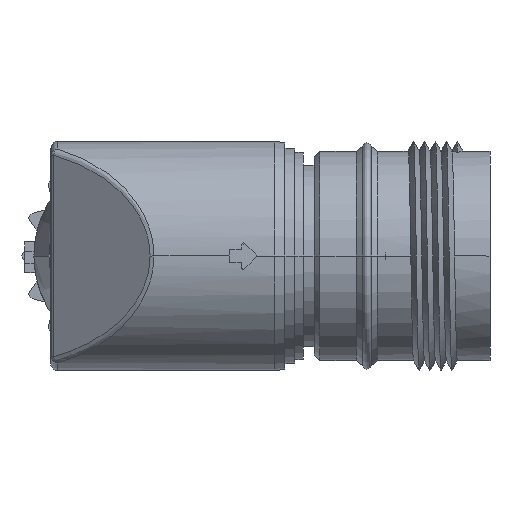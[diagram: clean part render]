
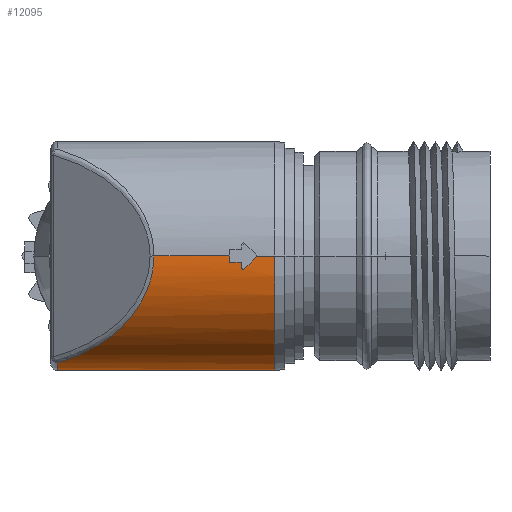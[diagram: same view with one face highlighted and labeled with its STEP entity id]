
A CAD part, left-side view. The second image highlights one B-rep face of the part: STEP entity #12095.
In plain terms, the highlighted cylindrical face has radius 13.1 mm (diameter 26.2 mm), a partial arc.
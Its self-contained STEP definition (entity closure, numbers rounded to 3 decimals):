
#8966=DIRECTION('',(-1.,0.,0.));
#8967=VECTOR('',#8966,8.636);
#8968=CARTESIAN_POINT('',(38.419,-13.1,
0.));
#8969=LINE('',#8968,#8967);
#8981=CARTESIAN_POINT('',(38.419,-13.1,
0.));
#9022=DIRECTION('',(-1.,0.,0.));
#9023=VECTOR('',#9022,6.211);
#9024=CARTESIAN_POINT('',(30.799,13.1,0.));
#9025=LINE('',#9024,#9023);
#9026=CARTESIAN_POINT('',(28.39,0.,0.));
#9027=DIRECTION('',(1.,0.,0.));
#9028=DIRECTION('',(0.,-0.994,0.108));
#9029=AXIS2_PLACEMENT_3D('',#9026,#9027,#9028);
#9031=CARTESIAN_POINT('',(28.134,-13.012,1.517));
#9032=CARTESIAN_POINT('',(27.662,-13.067,1.045));
#9033=CARTESIAN_POINT('',(27.189,-13.096,
0.572));
#9034=CARTESIAN_POINT('',(26.716,-13.1,
0.098));
#9036=DIRECTION('',(-1.,0.,0.));
#9037=VECTOR('',#9036,2.084);
#9038=CARTESIAN_POINT('',(26.672,-13.1,0.));
#9039=LINE('',#9038,#9037);
#9040=CARTESIAN_POINT('',(30.799,13.1,0.));
#9041=CARTESIAN_POINT('',(30.799,13.1,0.462));
#9042=CARTESIAN_POINT('',(30.865,13.052,1.374));
#9043=CARTESIAN_POINT('',(31.17,12.835,2.73));
#9044=CARTESIAN_POINT('',(31.635,12.512,3.942));
#9045=CARTESIAN_POINT('',(32.208,12.125,4.993));
#9046=CARTESIAN_POINT('',(32.805,11.74,5.831));
#9047=CARTESIAN_POINT('',(33.383,11.385,6.491));
#9048=CARTESIAN_POINT('',(33.949,11.056,7.035));
#9049=CARTESIAN_POINT('',(34.517,10.744,7.501));
#9050=CARTESIAN_POINT('',(35.125,10.434,7.926));
#9051=CARTESIAN_POINT('',(35.78,10.131,8.309));
#9052=CARTESIAN_POINT('',(36.458,9.854,8.635));
#9053=CARTESIAN_POINT('',(37.173,9.603,8.912));
#9054=CARTESIAN_POINT('',(37.961,9.382,9.144));
#9055=CARTESIAN_POINT('',(38.82,9.213,9.314));
#9056=CARTESIAN_POINT('',(39.718,9.121,9.403));
#9057=CARTESIAN_POINT('',(40.62,9.118,9.406));
#9058=CARTESIAN_POINT('',(41.514,9.203,9.323));
#9059=CARTESIAN_POINT('',(42.369,9.366,9.161));
#9060=CARTESIAN_POINT('',(43.154,9.581,8.937));
#9061=CARTESIAN_POINT('',(43.865,9.825,8.668));
#9062=CARTESIAN_POINT('',(44.536,10.095,8.353));
#9063=CARTESIAN_POINT('',(45.185,10.391,7.982));
#9064=CARTESIAN_POINT('',(45.79,10.695,7.57));
#9065=CARTESIAN_POINT('',(46.354,11.001,7.12));
#9066=CARTESIAN_POINT('',(46.91,11.322,6.6));
#9067=CARTESIAN_POINT('',(47.477,11.667,5.975));
#9068=CARTESIAN_POINT('',(48.066,12.043,5.186));
#9069=CARTESIAN_POINT('',(48.647,12.431,4.187));
#9070=CARTESIAN_POINT('',(49.139,12.771,3.009));
#9071=CARTESIAN_POINT('',(49.367,12.933,2.139));
#9072=CARTESIAN_POINT('',(49.45,12.992,1.679));
#9074=CARTESIAN_POINT('',(49.45,0.,0.));
#9075=DIRECTION('',(-1.,0.,0.));
#9076=DIRECTION('',(0.,-0.359,0.933));
#9077=AXIS2_PLACEMENT_3D('',#9074,#9075,#9076);
#9079=CARTESIAN_POINT('',(38.419,-13.1,
0.));
#9080=CARTESIAN_POINT('',(38.419,-13.1,
0.488));
#9081=CARTESIAN_POINT('',(38.491,-13.045,1.481));
#9082=CARTESIAN_POINT('',(38.829,-12.788,2.981));
#9083=CARTESIAN_POINT('',(39.434,-12.327,4.538));
#9084=CARTESIAN_POINT('',(40.359,-11.624,6.129));
#9085=CARTESIAN_POINT('',(41.623,-10.662,7.687));
#9086=CARTESIAN_POINT('',(43.233,-9.436,9.161));
#9087=CARTESIAN_POINT('',(45.3,-7.863,10.549));
#9088=CARTESIAN_POINT('',(47.548,-6.152,11.613));
#9089=CARTESIAN_POINT('',(48.839,-5.17,12.047));
#9090=CARTESIAN_POINT('',(49.45,-4.704,12.226));
#9092=CARTESIAN_POINT('',(29.79,-13.081,0.7));
#9093=CARTESIAN_POINT('',(29.788,-13.094,
0.467));
#9094=CARTESIAN_POINT('',(29.785,-13.1,0.234));
#9095=CARTESIAN_POINT('',(29.783,-13.1,0.));
#9097=DIRECTION('',(1.,0.,0.));
#9098=VECTOR('',#9097,1.25);
#9099=CARTESIAN_POINT('',(28.54,-13.081,0.7));
#9100=LINE('',#9099,#9098);
#9101=CARTESIAN_POINT('',(28.39,-13.072,0.85));
#9102=CARTESIAN_POINT('',(28.39,-13.074,
0.83));
#9103=CARTESIAN_POINT('',(28.398,-13.076,
0.792));
#9104=CARTESIAN_POINT('',(28.431,-13.079,
0.741));
#9105=CARTESIAN_POINT('',(28.482,-13.081,
0.708));
#9106=CARTESIAN_POINT('',(28.52,-13.081,0.7));
#9107=CARTESIAN_POINT('',(28.54,-13.081,0.7));
#9117=CARTESIAN_POINT('',(28.134,-13.012,1.517));
#9118=CARTESIAN_POINT('',(28.151,-13.01,1.534));
#9119=CARTESIAN_POINT('',(28.192,-13.007,1.559));
#9120=CARTESIAN_POINT('',(28.264,-13.006,1.565));
#9121=CARTESIAN_POINT('',(28.331,-13.01,1.537));
#9122=CARTESIAN_POINT('',(28.379,-13.016,1.482));
#9123=CARTESIAN_POINT('',(28.39,-13.021,1.435));
#9124=CARTESIAN_POINT('',(28.39,-13.024,1.411));
#9191=CARTESIAN_POINT('',(26.672,-13.1,0.));
#9193=CARTESIAN_POINT('',(26.672,-13.1,0.));
#9194=CARTESIAN_POINT('',(26.673,-13.1,0.018));
#9195=CARTESIAN_POINT('',(26.682,-13.1,
0.055));
#9196=CARTESIAN_POINT('',(26.703,-13.1,
0.085));
#9197=CARTESIAN_POINT('',(26.716,-13.1,
0.098));
#9241=CARTESIAN_POINT('',(24.588,0.,0.));
#9242=DIRECTION('',(1.,0.,0.));
#9243=DIRECTION('',(0.,1.,0.));
#9244=AXIS2_PLACEMENT_3D('',#9241,#9242,#9243);
#10482=CARTESIAN_POINT('',(24.588,13.1,0.));
#10484=VERTEX_POINT('',#10482);
#10486=CARTESIAN_POINT('',(24.588,-13.1,0.));
#10488=VERTEX_POINT('',#10486);
#10490=CARTESIAN_POINT('',(30.799,13.1,0.));
#10491=VERTEX_POINT('',#10490);
#10520=VERTEX_POINT('',#9092);
#10521=VERTEX_POINT('',#9095);
#10639=VERTEX_POINT('',#8981);
#10641=VERTEX_POINT('',#9090);
#10645=CARTESIAN_POINT('',(49.45,12.992,1.679));
#10646=VERTEX_POINT('',#10645);
#10647=CARTESIAN_POINT('',(28.39,-13.072,0.85));
#10649=VERTEX_POINT('',#10647);
#10651=VERTEX_POINT('',#9107);
#10670=CARTESIAN_POINT('',(26.716,-13.1,
0.098));
#10672=VERTEX_POINT('',#10670);
#10678=CARTESIAN_POINT('',(28.39,-13.024,
1.411));
#10680=VERTEX_POINT('',#10678);
#10683=CARTESIAN_POINT('',(28.134,-13.012,
1.517));
#10684=VERTEX_POINT('',#10683);
#10685=VERTEX_POINT('',#9191);
#12063=CARTESIAN_POINT('',(-4.335,0.,0.));
#12064=DIRECTION('',(1.,0.,0.));
#12065=DIRECTION('',(0.,-1.,0.));
#12066=AXIS2_PLACEMENT_3D('',#12063,#12064,#12065);
#12067=CYLINDRICAL_SURFACE('',#12066,13.1);
#12069=ORIENTED_EDGE('',*,*,#12068,.F.);
#12071=ORIENTED_EDGE('',*,*,#12070,.F.);
#12073=ORIENTED_EDGE('',*,*,#12072,.T.);
#12075=ORIENTED_EDGE('',*,*,#12074,.F.);
#12076=ORIENTED_EDGE('',*,*,#12033,.T.);
#12078=ORIENTED_EDGE('',*,*,#12077,.F.);
#12079=ORIENTED_EDGE('',*,*,#12056,.F.);
#12081=ORIENTED_EDGE('',*,*,#12080,.T.);
#12083=ORIENTED_EDGE('',*,*,#12082,.F.);
#12085=ORIENTED_EDGE('',*,*,#12084,.F.);
#12086=ORIENTED_EDGE('',*,*,#12049,.T.);
#12088=ORIENTED_EDGE('',*,*,#12087,.F.);
#12090=ORIENTED_EDGE('',*,*,#12089,.F.);
#12092=ORIENTED_EDGE('',*,*,#12091,.F.);
#12093=EDGE_LOOP('',(#12069,#12071,#12073,#12075,#12076,#12078,#12079,#12081,
#12083,#12085,#12086,#12088,#12090,#12092));
#12094=FACE_OUTER_BOUND('',#12093,.F.);
#12095=ADVANCED_FACE('',(#12094),#12067,.T.);
#9030=CIRCLE('',#9029,13.1);
#9035=B_SPLINE_CURVE_WITH_KNOTS('',3,(#9031,#9032,#9033,#9034),.UNSPECIFIED.,
.F.,.F.,(4,4),(0.,1.),.UNSPECIFIED.);
#9073=B_SPLINE_CURVE_WITH_KNOTS('',3,(#9040,#9041,#9042,#9043,#9044,#9045,#9046,
#9047,#9048,#9049,#9050,#9051,#9052,#9053,#9054,#9055,#9056,#9057,#9058,#9059,
#9060,#9061,#9062,#9063,#9064,#9065,#9066,#9067,#9068,#9069,#9070,#9071,#9072),
.UNSPECIFIED.,.F.,.F.,(4,1,1,1,1,1,1,1,1,1,1,1,1,1,1,1,1,1,1,1,1,1,1,1,1,1,1,1,
1,1,4),(0.,0.033,0.067,0.1,0.133,
0.167,0.2,0.233,0.267,0.3,
0.333,0.367,0.4,0.433,0.467,
0.5,0.533,0.567,0.6,0.633,
0.667,0.7,0.733,0.767,0.8,
0.833,0.867,0.9,0.933,0.967,
1.),.UNSPECIFIED.);
#9078=CIRCLE('',#9077,13.1);
#9091=B_SPLINE_CURVE_WITH_KNOTS('',3,(#9079,#9080,#9081,#9082,#9083,#9084,#9085,
#9086,#9087,#9088,#9089,#9090),.UNSPECIFIED.,.F.,.F.,(4,1,1,1,1,1,1,1,1,4),
(0.,0.111,0.222,0.333,0.444,
0.556,0.667,0.778,0.889,1.),
.UNSPECIFIED.);
#9096=B_SPLINE_CURVE_WITH_KNOTS('',3,(#9092,#9093,#9094,#9095),.UNSPECIFIED.,
.F.,.F.,(4,4),(0.,1.),.UNSPECIFIED.);
#9108=B_SPLINE_CURVE_WITH_KNOTS('',3,(#9101,#9102,#9103,#9104,#9105,#9106,
#9107),.UNSPECIFIED.,.F.,.F.,(4,1,1,1,4),(0.,0.25,0.5,0.75,1.),
.UNSPECIFIED.);
#9125=B_SPLINE_CURVE_WITH_KNOTS('',3,(#9117,#9118,#9119,#9120,#9121,#9122,#9123,
#9124),.UNSPECIFIED.,.F.,.F.,(4,1,1,1,1,4),(0.,0.2,0.4,0.6,0.8,1.),
.UNSPECIFIED.);
#9198=B_SPLINE_CURVE_WITH_KNOTS('',3,(#9193,#9194,#9195,#9196,#9197),
.UNSPECIFIED.,.F.,.F.,(4,1,4),(0.,0.5,1.),.UNSPECIFIED.);
#9245=CIRCLE('',#9244,13.1);
#12033=EDGE_CURVE('',#10685,#10488,#9039,.T.);
#12049=EDGE_CURVE('',#10639,#10521,#8969,.T.);
#12056=EDGE_CURVE('',#10491,#10484,#9025,.T.);
#12068=EDGE_CURVE('',#10680,#10649,#9030,.T.);
#12070=EDGE_CURVE('',#10684,#10680,#9125,.T.);
#12072=EDGE_CURVE('',#10684,#10672,#9035,.T.);
#12074=EDGE_CURVE('',#10685,#10672,#9198,.T.);
#12077=EDGE_CURVE('',#10484,#10488,#9245,.T.);
#12080=EDGE_CURVE('',#10491,#10646,#9073,.T.);
#12082=EDGE_CURVE('',#10641,#10646,#9078,.T.);
#12084=EDGE_CURVE('',#10639,#10641,#9091,.T.);
#12087=EDGE_CURVE('',#10520,#10521,#9096,.T.);
#12089=EDGE_CURVE('',#10651,#10520,#9100,.T.);
#12091=EDGE_CURVE('',#10649,#10651,#9108,.T.);
